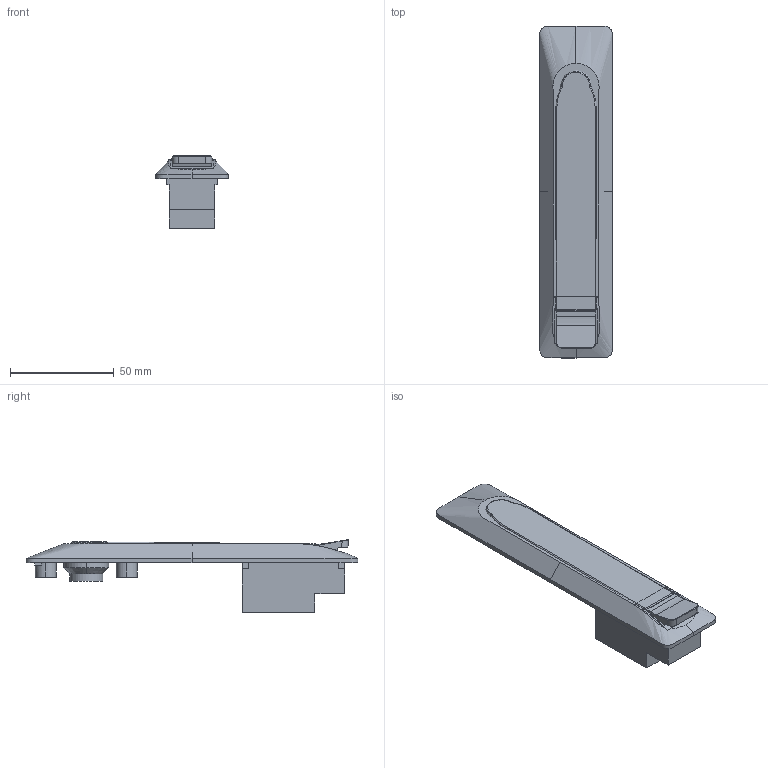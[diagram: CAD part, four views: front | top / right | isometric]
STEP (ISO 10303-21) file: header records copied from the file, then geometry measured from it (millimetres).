
FILE_DESCRIPTION (( 'STEP AP203' ), '1' );
FILE_NAME ('Ðó÷êà ïîâîðîòíàÿ öèíêîâàÿ ñ öèëèíäðîì.STEP', '2020-02-12T12:58:11', ( '' ), ( '' ), 'SwSTEP 2.0', 'SolidWorks 2018', '' );
FILE_SCHEMA (( 'CONFIG_CONTROL_DESIGN' ));
Length unit declared in the file: millimetre
Products named in the file (1): Ðó÷êà ïîâîðîòíàÿ öèíêîâàÿ ñ öèëèíäðîì
Bounding box: 35 x 160 x 35.05 mm (x, y, z)
Surface area: 28380.7 mm2 (no closed solid volume)
Topology: 0 solids, 5 shells, 389 faces, 971 edges, 596 vertices
Faces by surface type: plane 133, bspline 125, cylinder 119, cone 12
Entity records: 23202 total; most frequent: CARTESIAN_POINT 14815, ORIENTED_EDGE 1919, DIRECTION 1475, EDGE_CURVE 961, VERTEX_POINT 596, AXIS2_PLACEMENT_3D 536, EDGE_LOOP 408, VECTOR 403
